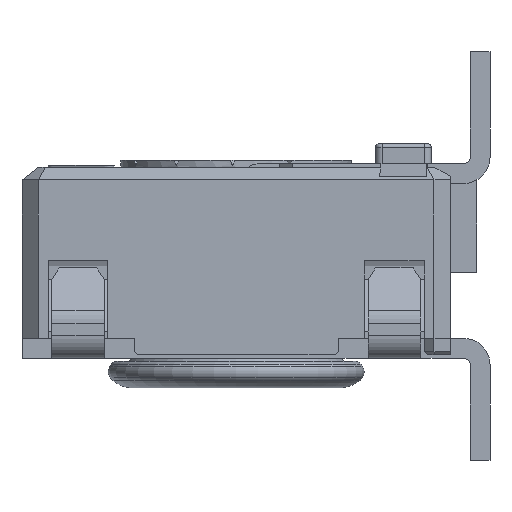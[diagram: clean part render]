
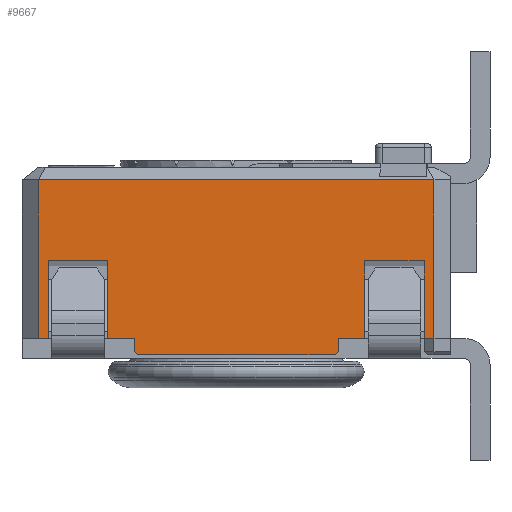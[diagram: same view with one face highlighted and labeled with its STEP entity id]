
A CAD part, left-side view. The second image highlights one B-rep face of the part: STEP entity #9667.
In plain terms, the highlighted planar face has unit normal (-1, 0, 0).
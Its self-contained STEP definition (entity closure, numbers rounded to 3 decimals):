
#848=FACE_OUTER_BOUND('',#1374,.T.);
#1374=EDGE_LOOP('',(#8245,#8246,#8247,#8248,#8249,#8250,#8251,#8252,#8253,
#8254,#8255,#8256,#8257,#8258,#8259,#8260,#8261,#8262));
#1970=LINE('',#14547,#3078);
#2079=LINE('',#14791,#3187);
#2085=LINE('',#14804,#3193);
#2091=LINE('',#14815,#3199);
#2097=LINE('',#14826,#3205);
#2102=LINE('',#14836,#3210);
#2105=LINE('',#14842,#3213);
#2110=LINE('',#14851,#3218);
#2126=LINE('',#14881,#3234);
#2149=LINE('',#14934,#3257);
#2161=LINE('',#14954,#3269);
#2163=LINE('',#14959,#3271);
#2172=LINE('',#14977,#3280);
#2173=LINE('',#14979,#3281);
#2370=LINE('',#15466,#3478);
#2383=LINE('',#15490,#3491);
#2384=LINE('',#15492,#3492);
#2385=LINE('',#15494,#3493);
#3078=VECTOR('',#11698,10.);
#3187=VECTOR('',#11873,10.);
#3193=VECTOR('',#11881,10.);
#3199=VECTOR('',#11887,10.);
#3205=VECTOR('',#11895,10.);
#3210=VECTOR('',#11902,10.);
#3213=VECTOR('',#11907,10.);
#3218=VECTOR('',#11914,10.);
#3234=VECTOR('',#11938,10.);
#3257=VECTOR('',#11989,10.);
#3269=VECTOR('',#12009,10.);
#3271=VECTOR('',#12013,10.);
#3280=VECTOR('',#12034,10.);
#3281=VECTOR('',#12037,10.);
#3478=VECTOR('',#12506,10.);
#3491=VECTOR('',#12527,10.);
#3492=VECTOR('',#12530,10.);
#3493=VECTOR('',#12533,10.);
#4142=VERTEX_POINT('',#14544);
#4143=VERTEX_POINT('',#14546);
#4244=VERTEX_POINT('',#14788);
#4245=VERTEX_POINT('',#14790);
#4249=VERTEX_POINT('',#14800);
#4251=VERTEX_POINT('',#14803);
#4256=VERTEX_POINT('',#14813);
#4259=VERTEX_POINT('',#14823);
#4263=VERTEX_POINT('',#14833);
#4266=VERTEX_POINT('',#14840);
#4269=VERTEX_POINT('',#14849);
#4277=VERTEX_POINT('',#14868);
#4279=VERTEX_POINT('',#14880);
#4295=VERTEX_POINT('',#14930);
#4300=VERTEX_POINT('',#14956);
#4436=VERTEX_POINT('',#15463);
#4437=VERTEX_POINT('',#15465);
#4444=VERTEX_POINT('',#15488);
#5223=EDGE_CURVE('',#4143,#4142,#1970,.T.);
#5348=EDGE_CURVE('',#4245,#4244,#2079,.T.);
#5354=EDGE_CURVE('',#4251,#4249,#2085,.T.);
#5360=EDGE_CURVE('',#4244,#4256,#2091,.T.);
#5366=EDGE_CURVE('',#4249,#4259,#2097,.T.);
#5371=EDGE_CURVE('',#4259,#4263,#2102,.T.);
#5374=EDGE_CURVE('',#4263,#4266,#2105,.T.);
#5379=EDGE_CURVE('',#4266,#4269,#2110,.T.);
#5395=EDGE_CURVE('',#4279,#4245,#2126,.T.);
#5424=EDGE_CURVE('',#4142,#4279,#2149,.T.);
#5436=EDGE_CURVE('',#4143,#4295,#2161,.T.);
#5438=EDGE_CURVE('',#4256,#4300,#2163,.T.);
#5447=EDGE_CURVE('',#4269,#4277,#2172,.T.);
#5448=EDGE_CURVE('',#4295,#4277,#2173,.T.);
#5687=EDGE_CURVE('',#4436,#4437,#2370,.T.);
#5700=EDGE_CURVE('',#4444,#4300,#2383,.T.);
#5701=EDGE_CURVE('',#4444,#4437,#2384,.T.);
#5702=EDGE_CURVE('',#4436,#4251,#2385,.T.);
#8245=ORIENTED_EDGE('',*,*,#5700,.F.);
#8246=ORIENTED_EDGE('',*,*,#5701,.T.);
#8247=ORIENTED_EDGE('',*,*,#5687,.F.);
#8248=ORIENTED_EDGE('',*,*,#5702,.T.);
#8249=ORIENTED_EDGE('',*,*,#5354,.T.);
#8250=ORIENTED_EDGE('',*,*,#5366,.T.);
#8251=ORIENTED_EDGE('',*,*,#5371,.T.);
#8252=ORIENTED_EDGE('',*,*,#5374,.T.);
#8253=ORIENTED_EDGE('',*,*,#5379,.T.);
#8254=ORIENTED_EDGE('',*,*,#5447,.T.);
#8255=ORIENTED_EDGE('',*,*,#5448,.F.);
#8256=ORIENTED_EDGE('',*,*,#5436,.F.);
#8257=ORIENTED_EDGE('',*,*,#5223,.T.);
#8258=ORIENTED_EDGE('',*,*,#5424,.T.);
#8259=ORIENTED_EDGE('',*,*,#5395,.T.);
#8260=ORIENTED_EDGE('',*,*,#5348,.T.);
#8261=ORIENTED_EDGE('',*,*,#5360,.T.);
#8262=ORIENTED_EDGE('',*,*,#5438,.T.);
#9019=PLANE('',#10379);
#9667=ADVANCED_FACE('',(#848),#9019,.T.);
#10379=AXIS2_PLACEMENT_3D('',#15675,#12735,#12736);
#11698=DIRECTION('',(0.,-1.,0.));
#11873=DIRECTION('',(0.,0.,-1.));
#11881=DIRECTION('',(0.,-1.,0.));
#11887=DIRECTION('',(0.,-1.,0.));
#11895=DIRECTION('',(0.,0.,1.));
#11902=DIRECTION('',(0.,-1.,0.));
#11907=DIRECTION('',(0.,0.,-1.));
#11914=DIRECTION('',(0.,-1.,0.));
#11938=DIRECTION('',(0.,-1.,0.));
#11989=DIRECTION('',(0.,0.,1.));
#12009=DIRECTION('',(0.,0.,1.));
#12013=DIRECTION('',(0.,0.,-1.));
#12034=DIRECTION('',(0.,0.,1.));
#12037=DIRECTION('',(0.,-1.,0.));
#12506=DIRECTION('',(0.,0.707,-0.707));
#12527=DIRECTION('',(0.,0.707,0.707));
#12530=DIRECTION('',(0.,-1.,0.));
#12533=DIRECTION('',(0.,0.,1.));
#12735=DIRECTION('center_axis',(-1.,0.,0.));
#12736=DIRECTION('ref_axis',(0.,0.,1.));
#14544=CARTESIAN_POINT('',(-14.26,-8.882,0.25));
#14546=CARTESIAN_POINT('',(-14.26,-8.732,0.25));
#14547=CARTESIAN_POINT('',(-14.26,-13.244,0.25));
#14788=CARTESIAN_POINT('',(-14.26,-9.782,0.25));
#14790=CARTESIAN_POINT('',(-14.26,-9.782,1.425));
#14791=CARTESIAN_POINT('',(-14.26,-9.782,0.387));
#14800=CARTESIAN_POINT('',(-14.26,-13.682,0.25));
#14803=CARTESIAN_POINT('',(-14.26,-13.282,0.25));
#14804=CARTESIAN_POINT('',(-14.26,-13.244,0.25));
#14813=CARTESIAN_POINT('',(-14.26,-10.182,0.25));
#14815=CARTESIAN_POINT('',(-14.26,-13.244,0.25));
#14823=CARTESIAN_POINT('',(-14.26,-13.682,1.425));
#14826=CARTESIAN_POINT('',(-14.26,-13.682,0.387));
#14833=CARTESIAN_POINT('',(-14.26,-14.582,1.425));
#14836=CARTESIAN_POINT('',(-14.26,-14.657,1.425));
#14840=CARTESIAN_POINT('',(-14.26,-14.582,0.25));
#14842=CARTESIAN_POINT('',(-14.26,-14.582,0.387));
#14849=CARTESIAN_POINT('',(-14.26,-14.732,0.25));
#14851=CARTESIAN_POINT('',(-14.26,-13.244,0.25));
#14868=CARTESIAN_POINT('',(-14.26,-14.732,2.655));
#14880=CARTESIAN_POINT('',(-14.26,-8.882,1.425));
#14881=CARTESIAN_POINT('',(-14.26,-11.807,1.425));
#14930=CARTESIAN_POINT('',(-14.26,-8.732,2.655));
#14934=CARTESIAN_POINT('',(-14.26,-8.882,0.387));
#14954=CARTESIAN_POINT('',(-14.26,-8.732,0.));
#14956=CARTESIAN_POINT('',(-14.26,-10.182,0.05));
#14959=CARTESIAN_POINT('',(-14.26,-10.182,0.));
#14977=CARTESIAN_POINT('',(-14.26,-14.732,0.));
#14979=CARTESIAN_POINT('',(-14.26,-13.232,2.655));
#15463=CARTESIAN_POINT('',(-14.26,-13.282,0.05));
#15465=CARTESIAN_POINT('',(-14.26,-13.232,0.));
#15466=CARTESIAN_POINT('',(-14.26,-13.619,0.388));
#15488=CARTESIAN_POINT('',(-14.26,-10.232,0.));
#15490=CARTESIAN_POINT('',(-14.26,-11.344,-1.113));
#15492=CARTESIAN_POINT('',(-14.26,-8.732,0.));
#15494=CARTESIAN_POINT('',(-14.26,-13.282,0.));
#15675=CARTESIAN_POINT('Origin',(-14.26,-14.732,0.));
